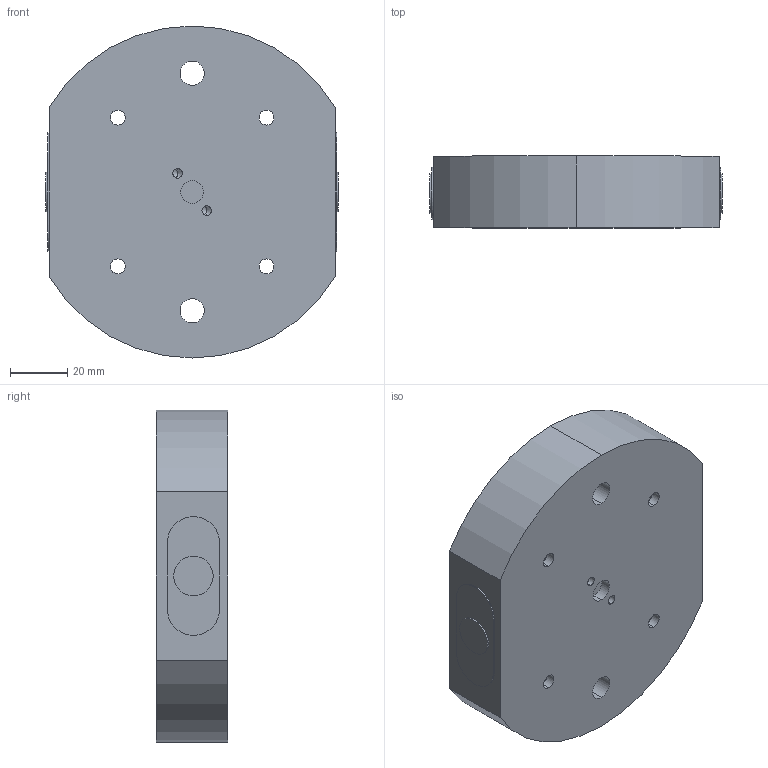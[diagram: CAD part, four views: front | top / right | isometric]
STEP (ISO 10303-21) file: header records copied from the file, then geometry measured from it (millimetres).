
FILE_DESCRIPTION (( 'STEP AP214' ), '1' );
FILE_NAME ('D_RL52A-4-TRT100.STEP', '2020-03-09T22:28:29', ( '' ), ( '' ), 'SwSTEP 2.0', 'SolidWorks 2018', '' );
FILE_SCHEMA (( 'AUTOMOTIVE_DESIGN' ));
Length unit declared in the file: inch
Products named in the file (1): D_RL52A-4-TRT100
Bounding box: 102.11 x 25 x 116 mm (x, y, z)
Volume: 197958.2 mm3; surface area: 48433.5 mm2
Topology: 1 solids, 1 shells, 178 faces, 433 edges, 282 vertices
Faces by surface type: cylinder 113, plane 57, cone 8
Entity records: 6485 total; most frequent: CARTESIAN_POINT 1364, DIRECTION 993, ORIENTED_EDGE 850, EDGE_CURVE 425, AXIS2_PLACEMENT_3D 411, VERTEX_POINT 282, CIRCLE 232, EDGE_LOOP 231
